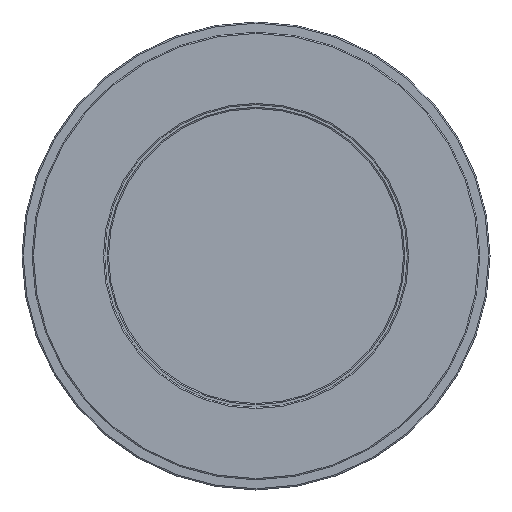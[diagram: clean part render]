
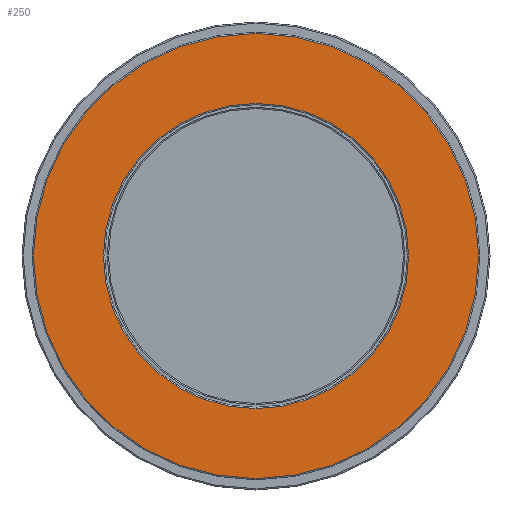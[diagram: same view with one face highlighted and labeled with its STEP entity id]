
A CAD part, front view. The second image highlights one B-rep face of the part: STEP entity #250.
In plain terms, the highlighted planar face has unit normal (0, -1, 0).
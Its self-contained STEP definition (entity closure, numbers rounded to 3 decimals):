
#250=ADVANCED_FACE('',(#3525,#3527),#3529,.T.);
#3525=FACE_BOUND('',#3526,.T.);
#3526=EDGE_LOOP('',(#4357,#4358));
#3527=FACE_BOUND('',#3528,.T.);
#3528=EDGE_LOOP('',(#4359,#4360));
#3529=PLANE('',#3530);
#3530=AXIS2_PLACEMENT_3D('',#3531,#3532,#3533);
#3531=CARTESIAN_POINT('',(0.,-38.,0.));
#3532=DIRECTION('',(0.,-1.,0.));
#3533=DIRECTION('',(0.,0.,1.));
#4357=ORIENTED_EDGE('',*,*,#4791,.F.);
#4358=ORIENTED_EDGE('',*,*,#4790,.F.);
#4359=ORIENTED_EDGE('',*,*,#4792,.T.);
#4360=ORIENTED_EDGE('',*,*,#4793,.T.);
#4790=EDGE_CURVE('',#5353,#5354,#5355,.T.);
#4791=EDGE_CURVE('',#5354,#5353,#5356,.T.);
#4792=EDGE_CURVE('',#5357,#5358,#5359,.T.);
#4793=EDGE_CURVE('',#5358,#5357,#5360,.T.);
#5353=VERTEX_POINT('',#9983);
#5354=VERTEX_POINT('',#9984);
#5355=CIRCLE('',#9985,87.5);
#5356=CIRCLE('',#9989,87.5);
#5357=VERTEX_POINT('',#9993);
#5358=VERTEX_POINT('',#9994);
#5359=CIRCLE('',#9995,60.);
#5360=CIRCLE('',#9999,60.);
#9983=CARTESIAN_POINT('',(0.,-38.,87.5));
#9984=CARTESIAN_POINT('',(0.,-38.,-87.5));
#9985=AXIS2_PLACEMENT_3D('',#9986,#9987,#9988);
#9986=CARTESIAN_POINT('',(0.,-38.,0.));
#9987=DIRECTION('',(0.,1.,0.));
#9988=DIRECTION('',(0.,0.,1.));
#9989=AXIS2_PLACEMENT_3D('',#9990,#9991,#9992);
#9990=CARTESIAN_POINT('',(0.,-38.,0.));
#9991=DIRECTION('',(0.,1.,0.));
#9992=DIRECTION('',(0.,0.,-1.));
#9993=CARTESIAN_POINT('',(0.,-38.,60.));
#9994=CARTESIAN_POINT('',(0.,-38.,-60.));
#9995=AXIS2_PLACEMENT_3D('',#9996,#9997,#9998);
#9996=CARTESIAN_POINT('',(0.,-38.,0.));
#9997=DIRECTION('',(0.,1.,0.));
#9998=DIRECTION('',(0.,0.,1.));
#9999=AXIS2_PLACEMENT_3D('',#10000,#10001,#10002);
#10000=CARTESIAN_POINT('',(0.,-38.,0.));
#10001=DIRECTION('',(0.,1.,0.));
#10002=DIRECTION('',(0.,0.,-1.));
